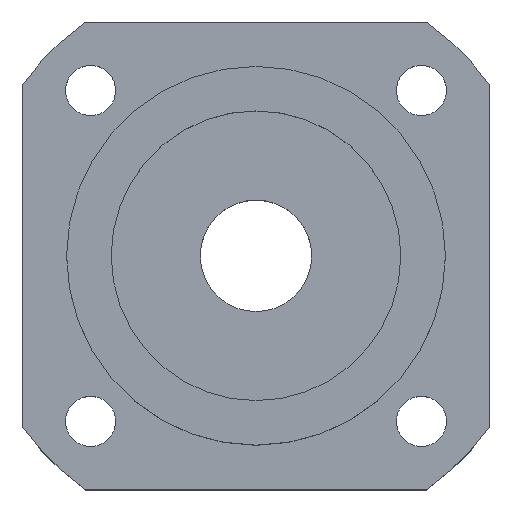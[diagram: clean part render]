
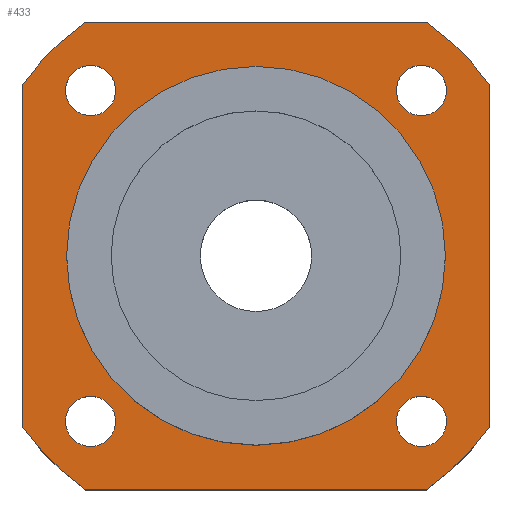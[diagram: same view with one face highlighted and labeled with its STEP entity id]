
A CAD part, top view. The second image highlights one B-rep face of the part: STEP entity #433.
In plain terms, the highlighted planar face has unit normal (0, 0, 1).
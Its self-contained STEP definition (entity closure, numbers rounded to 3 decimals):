
#16=LINE($,#720,#32);
#20=LINE($,#732,#36);
#24=LINE($,#744,#40);
#28=LINE($,#754,#44);
#32=VECTOR($,#598,30.659);
#36=VECTOR($,#610,30.659);
#40=VECTOR($,#622,30.659);
#44=VECTOR($,#634,30.659);
#56=PLANE($,#497);
#80=FACE_BOUND($,#162,.T.);
#81=FACE_BOUND($,#163,.T.);
#82=FACE_BOUND($,#164,.T.);
#83=FACE_BOUND($,#165,.T.);
#84=FACE_BOUND($,#166,.T.);
#85=FACE_BOUND($,#167,.T.);
#162=EDGE_LOOP($,(#364));
#163=EDGE_LOOP($,(#365));
#164=EDGE_LOOP($,(#366));
#165=EDGE_LOOP($,(#367));
#166=EDGE_LOOP($,(#368));
#167=EDGE_LOOP($,(#369,#370,#371,#372,#373,#374,#375,#376));
#183=CIRCLE($,#455,2.25);
#187=CIRCLE($,#462,2.25);
#191=CIRCLE($,#469,2.25);
#195=CIRCLE($,#476,2.25);
#197=CIRCLE($,#479,17.);
#199=CIRCLE($,#483,26.);
#201=CIRCLE($,#487,26.);
#203=CIRCLE($,#491,26.);
#205=CIRCLE($,#495,26.);
#215=VERTEX_POINT($,#666);
#219=VERTEX_POINT($,#677);
#223=VERTEX_POINT($,#688);
#227=VERTEX_POINT($,#699);
#229=VERTEX_POINT($,#704);
#232=VERTEX_POINT($,#711);
#233=VERTEX_POINT($,#713);
#235=VERTEX_POINT($,#719);
#237=VERTEX_POINT($,#725);
#239=VERTEX_POINT($,#731);
#241=VERTEX_POINT($,#737);
#243=VERTEX_POINT($,#743);
#245=VERTEX_POINT($,#749);
#255=EDGE_CURVE($,#215,#215,#183,.T.);
#259=EDGE_CURVE($,#219,#219,#187,.T.);
#263=EDGE_CURVE($,#223,#223,#191,.T.);
#267=EDGE_CURVE($,#227,#227,#195,.T.);
#269=EDGE_CURVE($,#229,#229,#197,.T.);
#272=EDGE_CURVE($,#233,#232,#199,.T.);
#275=EDGE_CURVE($,#235,#233,#16,.T.);
#278=EDGE_CURVE($,#237,#235,#201,.T.);
#281=EDGE_CURVE($,#239,#237,#20,.T.);
#284=EDGE_CURVE($,#241,#239,#203,.T.);
#287=EDGE_CURVE($,#243,#241,#24,.T.);
#290=EDGE_CURVE($,#245,#243,#205,.T.);
#293=EDGE_CURVE($,#232,#245,#28,.T.);
#364=ORIENTED_EDGE($,*,*,#255,.T.);
#365=ORIENTED_EDGE($,*,*,#259,.T.);
#366=ORIENTED_EDGE($,*,*,#263,.T.);
#367=ORIENTED_EDGE($,*,*,#267,.T.);
#368=ORIENTED_EDGE($,*,*,#269,.T.);
#369=ORIENTED_EDGE($,*,*,#293,.T.);
#370=ORIENTED_EDGE($,*,*,#290,.T.);
#371=ORIENTED_EDGE($,*,*,#287,.T.);
#372=ORIENTED_EDGE($,*,*,#284,.T.);
#373=ORIENTED_EDGE($,*,*,#281,.T.);
#374=ORIENTED_EDGE($,*,*,#278,.T.);
#375=ORIENTED_EDGE($,*,*,#275,.T.);
#376=ORIENTED_EDGE($,*,*,#272,.T.);
#433=ADVANCED_FACE($,(#80,#81,#82,#83,#84,#85),#56,.T.);
#455=AXIS2_PLACEMENT_3D($,#667,#535,#536);
#462=AXIS2_PLACEMENT_3D($,#678,#549,#550);
#469=AXIS2_PLACEMENT_3D($,#689,#563,#564);
#476=AXIS2_PLACEMENT_3D($,#700,#577,#578);
#479=AXIS2_PLACEMENT_3D($,#705,#583,#584);
#483=AXIS2_PLACEMENT_3D($,#714,#592,#593);
#487=AXIS2_PLACEMENT_3D($,#726,#604,#605);
#491=AXIS2_PLACEMENT_3D($,#738,#616,#617);
#495=AXIS2_PLACEMENT_3D($,#750,#628,#629);
#497=AXIS2_PLACEMENT_3D($,#755,#635,#636);
#535=DIRECTION('center_axis',(0.,0.,-1.));
#536=DIRECTION('ref_axis',(-1.,0.,0.));
#549=DIRECTION('center_axis',(0.,0.,-1.));
#550=DIRECTION('ref_axis',(-1.,0.,0.));
#563=DIRECTION('center_axis',(0.,0.,-1.));
#564=DIRECTION('ref_axis',(-1.,0.,0.));
#577=DIRECTION('center_axis',(0.,0.,-1.));
#578=DIRECTION('ref_axis',(-1.,0.,0.));
#583=DIRECTION('center_axis',(0.,0.,-1.));
#584=DIRECTION('ref_axis',(-1.,0.,0.));
#592=DIRECTION('center_axis',(0.,0.,1.));
#593=DIRECTION('ref_axis',(-0.59,0.808,0.));
#598=DIRECTION($,(-1.,0.,0.));
#604=DIRECTION('center_axis',(0.,0.,1.));
#605=DIRECTION('ref_axis',(0.808,0.59,0.));
#610=DIRECTION($,(0.,1.,0.));
#616=DIRECTION('center_axis',(0.,0.,1.));
#617=DIRECTION('ref_axis',(0.59,-0.808,0.));
#622=DIRECTION($,(1.,0.,0.));
#628=DIRECTION('center_axis',(0.,0.,1.));
#629=DIRECTION('ref_axis',(-0.808,-0.59,0.));
#634=DIRECTION($,(0.,-1.,0.));
#635=DIRECTION('center_axis',(0.,0.,1.));
#636=DIRECTION('ref_axis',(1.,0.,0.));
#666=CARTESIAN_POINT('',(-12.599,-14.849,7.));
#667=CARTESIAN_POINT('Origin',(-14.849,-14.849,7.));
#677=CARTESIAN_POINT('',(17.099,14.849,7.));
#678=CARTESIAN_POINT('Origin',(14.849,14.849,7.));
#688=CARTESIAN_POINT('',(17.099,-14.849,7.));
#689=CARTESIAN_POINT('Origin',(14.849,-14.849,7.));
#699=CARTESIAN_POINT('',(-12.599,14.849,7.));
#700=CARTESIAN_POINT('Origin',(-14.849,14.849,7.));
#704=CARTESIAN_POINT('',(17.,0.,7.));
#705=CARTESIAN_POINT('Origin',(0.,0.,7.));
#711=CARTESIAN_POINT('',(-21.,15.33,7.));
#713=CARTESIAN_POINT('',(-15.33,21.,7.));
#714=CARTESIAN_POINT('Origin',(0.,0.,7.));
#719=CARTESIAN_POINT('',(15.33,21.,7.));
#720=CARTESIAN_POINT($,(15.33,21.,7.));
#725=CARTESIAN_POINT('',(21.,15.33,7.));
#726=CARTESIAN_POINT('Origin',(0.,0.,7.));
#731=CARTESIAN_POINT('',(21.,-15.33,7.));
#732=CARTESIAN_POINT($,(21.,-15.33,7.));
#737=CARTESIAN_POINT('',(15.33,-21.,7.));
#738=CARTESIAN_POINT('Origin',(0.,0.,7.));
#743=CARTESIAN_POINT('',(-15.33,-21.,7.));
#744=CARTESIAN_POINT($,(-15.33,-21.,7.));
#749=CARTESIAN_POINT('',(-21.,-15.33,7.));
#750=CARTESIAN_POINT('Origin',(0.,0.,7.));
#754=CARTESIAN_POINT($,(-21.,15.33,7.));
#755=CARTESIAN_POINT('Origin',(0.,0.,
7.));
